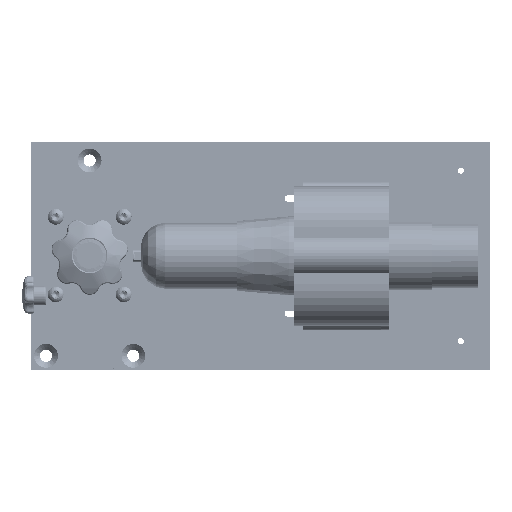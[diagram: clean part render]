
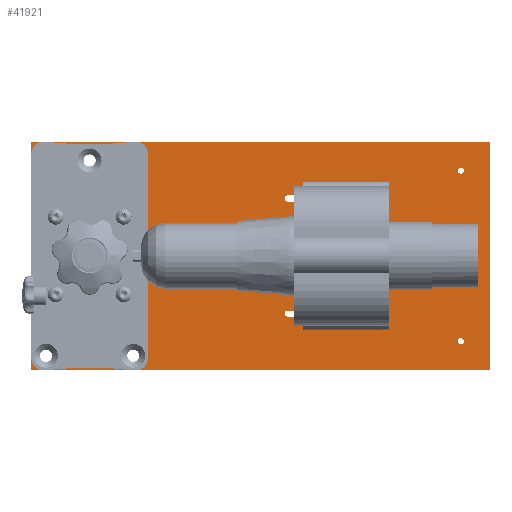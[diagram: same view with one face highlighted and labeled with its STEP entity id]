
A CAD part, top view. The second image highlights one B-rep face of the part: STEP entity #41921.
In plain terms, the highlighted planar face has unit normal (0, 0, 1).
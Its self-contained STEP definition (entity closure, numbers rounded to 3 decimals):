
#2645=FACE_BOUND('',#14587,.T.);
#2646=FACE_BOUND('',#14588,.T.);
#2647=FACE_BOUND('',#14589,.T.);
#2648=FACE_BOUND('',#14590,.T.);
#2649=FACE_BOUND('',#14591,.T.);
#2650=FACE_BOUND('',#14592,.T.);
#2651=FACE_BOUND('',#14593,.T.);
#2652=FACE_BOUND('',#14594,.T.);
#2653=FACE_BOUND('',#14595,.T.);
#3282=PLANE('',#45919);
#5472=LINE('',#121179,#8157);
#5474=LINE('',#121182,#8159);
#5478=LINE('',#121196,#8163);
#5482=LINE('',#121206,#8167);
#5486=LINE('',#121228,#8171);
#5490=LINE('',#121236,#8175);
#5493=LINE('',#121242,#8178);
#5496=LINE('',#121247,#8181);
#8157=VECTOR('',#55342,10.);
#8159=VECTOR('',#55346,10.);
#8163=VECTOR('',#55358,10.);
#8167=VECTOR('',#55370,10.);
#8171=VECTOR('',#55394,10.);
#8175=VECTOR('',#55400,10.);
#8178=VECTOR('',#55405,10.);
#8181=VECTOR('',#55410,10.);
#11931=FACE_OUTER_BOUND('',#14586,.T.);
#14586=EDGE_LOOP('',(#37456,#37457,#37458,#37459));
#14587=EDGE_LOOP('',(#37460));
#14588=EDGE_LOOP('',(#37461));
#14589=EDGE_LOOP('',(#37462));
#14590=EDGE_LOOP('',(#37463));
#14591=EDGE_LOOP('',(#37464,#37465,#37466,#37467));
#14592=EDGE_LOOP('',(#37468,#37469,#37470,#37471));
#14593=EDGE_LOOP('',(#37472));
#14594=EDGE_LOOP('',(#37473));
#14595=EDGE_LOOP('',(#37474));
#16573=CIRCLE('',#45879,2.);
#16575=CIRCLE('',#45882,2.);
#16577=CIRCLE('',#45885,2.);
#16579=CIRCLE('',#45888,2.);
#16581=CIRCLE('',#45891,2.);
#16583=CIRCLE('',#45894,2.);
#16585=CIRCLE('',#45899,2.);
#16587=CIRCLE('',#45903,2.);
#16589=CIRCLE('',#45907,3.969);
#16591=CIRCLE('',#45910,3.969);
#16593=CIRCLE('',#45913,3.969);
#20196=VERTEX_POINT('',#121138);
#20198=VERTEX_POINT('',#121144);
#20200=VERTEX_POINT('',#121150);
#20202=VERTEX_POINT('',#121156);
#20205=VERTEX_POINT('',#121163);
#20206=VERTEX_POINT('',#121165);
#20209=VERTEX_POINT('',#121172);
#20210=VERTEX_POINT('',#121174);
#20213=VERTEX_POINT('',#121187);
#20214=VERTEX_POINT('',#121189);
#20216=VERTEX_POINT('',#121195);
#20218=VERTEX_POINT('',#121201);
#20220=VERTEX_POINT('',#121210);
#20222=VERTEX_POINT('',#121216);
#20224=VERTEX_POINT('',#121222);
#20225=VERTEX_POINT('',#121226);
#20226=VERTEX_POINT('',#121227);
#20229=VERTEX_POINT('',#121235);
#20231=VERTEX_POINT('',#121241);
#26037=EDGE_CURVE('',#20196,#20196,#16573,.T.);
#26040=EDGE_CURVE('',#20198,#20198,#16575,.T.);
#26043=EDGE_CURVE('',#20200,#20200,#16577,.T.);
#26046=EDGE_CURVE('',#20202,#20202,#16579,.T.);
#26049=EDGE_CURVE('',#20206,#20205,#16581,.T.);
#26053=EDGE_CURVE('',#20210,#20209,#16583,.T.);
#26056=EDGE_CURVE('',#20205,#20210,#5472,.T.);
#26058=EDGE_CURVE('',#20209,#20206,#5474,.T.);
#26061=EDGE_CURVE('',#20214,#20213,#16585,.T.);
#26064=EDGE_CURVE('',#20216,#20214,#5478,.T.);
#26067=EDGE_CURVE('',#20218,#20216,#16587,.T.);
#26070=EDGE_CURVE('',#20213,#20218,#5482,.T.);
#26073=EDGE_CURVE('',#20220,#20220,#16589,.T.);
#26076=EDGE_CURVE('',#20222,#20222,#16591,.T.);
#26079=EDGE_CURVE('',#20224,#20224,#16593,.T.);
#26080=EDGE_CURVE('',#20225,#20226,#5486,.T.);
#26084=EDGE_CURVE('',#20226,#20229,#5490,.T.);
#26087=EDGE_CURVE('',#20229,#20231,#5493,.T.);
#26090=EDGE_CURVE('',#20231,#20225,#5496,.T.);
#37456=ORIENTED_EDGE('',*,*,#26090,.T.);
#37457=ORIENTED_EDGE('',*,*,#26080,.T.);
#37458=ORIENTED_EDGE('',*,*,#26084,.T.);
#37459=ORIENTED_EDGE('',*,*,#26087,.T.);
#37460=ORIENTED_EDGE('',*,*,#26037,.T.);
#37461=ORIENTED_EDGE('',*,*,#26040,.T.);
#37462=ORIENTED_EDGE('',*,*,#26043,.T.);
#37463=ORIENTED_EDGE('',*,*,#26046,.T.);
#37464=ORIENTED_EDGE('',*,*,#26056,.T.);
#37465=ORIENTED_EDGE('',*,*,#26053,.T.);
#37466=ORIENTED_EDGE('',*,*,#26058,.T.);
#37467=ORIENTED_EDGE('',*,*,#26049,.T.);
#37468=ORIENTED_EDGE('',*,*,#26070,.T.);
#37469=ORIENTED_EDGE('',*,*,#26067,.T.);
#37470=ORIENTED_EDGE('',*,*,#26064,.T.);
#37471=ORIENTED_EDGE('',*,*,#26061,.T.);
#37472=ORIENTED_EDGE('',*,*,#26079,.F.);
#37473=ORIENTED_EDGE('',*,*,#26076,.F.);
#37474=ORIENTED_EDGE('',*,*,#26073,.F.);
#41921=ADVANCED_FACE('',(#11931,#2645,#2646,#2647,#2648,#2649,#2650,#2651,
#2652,#2653),#3282,.F.);
#45879=AXIS2_PLACEMENT_3D('',#121140,#55300,#55301);
#45882=AXIS2_PLACEMENT_3D('',#121146,#55307,#55308);
#45885=AXIS2_PLACEMENT_3D('',#121152,#55314,#55315);
#45888=AXIS2_PLACEMENT_3D('',#121158,#55321,#55322);
#45891=AXIS2_PLACEMENT_3D('',#121166,#55328,#55329);
#45894=AXIS2_PLACEMENT_3D('',#121175,#55336,#55337);
#45899=AXIS2_PLACEMENT_3D('',#121190,#55352,#55353);
#45903=AXIS2_PLACEMENT_3D('',#121202,#55364,#55365);
#45907=AXIS2_PLACEMENT_3D('',#121212,#55376,#55377);
#45910=AXIS2_PLACEMENT_3D('',#121218,#55383,#55384);
#45913=AXIS2_PLACEMENT_3D('',#121224,#55390,#55391);
#45919=AXIS2_PLACEMENT_3D('',#121250,#55414,#55415);
#55300=DIRECTION('center_axis',(0.,0.,-1.));
#55301=DIRECTION('ref_axis',(1.,0.,0.));
#55307=DIRECTION('center_axis',(0.,0.,-1.));
#55308=DIRECTION('ref_axis',(1.,0.,0.));
#55314=DIRECTION('center_axis',(0.,0.,-1.));
#55315=DIRECTION('ref_axis',(1.,0.,0.));
#55321=DIRECTION('center_axis',(0.,0.,-1.));
#55322=DIRECTION('ref_axis',(1.,0.,0.));
#55328=DIRECTION('center_axis',(0.,0.,-1.));
#55329=DIRECTION('ref_axis',(0.,1.,0.));
#55336=DIRECTION('center_axis',(0.,0.,-1.));
#55337=DIRECTION('ref_axis',(0.,-1.,0.));
#55342=DIRECTION('',(-1.,0.,0.));
#55346=DIRECTION('',(1.,0.,0.));
#55352=DIRECTION('center_axis',(0.,0.,-1.));
#55353=DIRECTION('ref_axis',(0.,1.,0.));
#55358=DIRECTION('',(1.,0.,0.));
#55364=DIRECTION('center_axis',(0.,0.,-1.));
#55365=DIRECTION('ref_axis',(0.,-1.,0.));
#55370=DIRECTION('',(-1.,0.,0.));
#55376=DIRECTION('center_axis',(0.,0.,1.));
#55377=DIRECTION('ref_axis',(1.,0.,0.));
#55383=DIRECTION('center_axis',(0.,0.,1.));
#55384=DIRECTION('ref_axis',(1.,0.,0.));
#55390=DIRECTION('center_axis',(0.,0.,1.));
#55391=DIRECTION('ref_axis',(1.,0.,0.));
#55394=DIRECTION('',(0.,-1.,0.));
#55400=DIRECTION('',(1.,0.,0.));
#55405=DIRECTION('',(0.,1.,0.));
#55410=DIRECTION('',(-1.,0.,0.));
#55414=DIRECTION('center_axis',(0.,0.,-1.));
#55415=DIRECTION('ref_axis',(1.,0.,0.));
#121138=CARTESIAN_POINT('',(240.85,55.761,-12.7));
#121140=CARTESIAN_POINT('Origin',(242.85,55.761,-12.7));
#121144=CARTESIAN_POINT('',(-21.05,55.761,-12.7));
#121146=CARTESIAN_POINT('Origin',(-19.05,55.761,-12.7));
#121150=CARTESIAN_POINT('',(240.85,-55.698,-12.7));
#121152=CARTESIAN_POINT('Origin',(242.85,-55.698,-12.7));
#121156=CARTESIAN_POINT('',(-2.,-55.698,-12.7));
#121158=CARTESIAN_POINT('Origin',(0.,-55.698,-12.7));
#121163=CARTESIAN_POINT('',(184.575,-39.645,-12.7));
#121165=CARTESIAN_POINT('',(184.575,-35.645,-12.7));
#121166=CARTESIAN_POINT('Origin',(184.575,-37.645,-12.7));
#121172=CARTESIAN_POINT('',(129.575,-35.645,-12.7));
#121174=CARTESIAN_POINT('',(129.575,-39.645,-12.7));
#121175=CARTESIAN_POINT('Origin',(129.575,-37.645,-12.7));
#121179=CARTESIAN_POINT('',(138.238,-39.645,-12.7));
#121182=CARTESIAN_POINT('',(128.238,-35.645,-12.7));
#121187=CARTESIAN_POINT('',(184.575,35.645,-12.7));
#121189=CARTESIAN_POINT('',(184.575,39.645,-12.7));
#121190=CARTESIAN_POINT('Origin',(184.575,37.645,-12.7));
#121195=CARTESIAN_POINT('',(129.575,39.645,-12.7));
#121196=CARTESIAN_POINT('',(128.238,39.645,-12.7));
#121201=CARTESIAN_POINT('',(129.575,35.645,-12.7));
#121202=CARTESIAN_POINT('Origin',(129.575,37.645,-12.7));
#121206=CARTESIAN_POINT('',(120.738,35.645,-12.7));
#121210=CARTESIAN_POINT('',(-32.544,-65.286,-12.7));
#121212=CARTESIAN_POINT('Origin',(-28.575,-65.286,-12.7));
#121216=CARTESIAN_POINT('',(24.606,-65.286,-12.7));
#121218=CARTESIAN_POINT('Origin',(28.575,-65.286,-12.7));
#121222=CARTESIAN_POINT('',(-3.969,62.492,-12.7));
#121224=CARTESIAN_POINT('Origin',(0.,62.492,-12.7));
#121226=CARTESIAN_POINT('',(-38.1,74.811,-12.7));
#121227=CARTESIAN_POINT('',(-38.1,-74.748,-12.7));
#121228=CARTESIAN_POINT('',(-38.1,74.811,-12.7));
#121235=CARTESIAN_POINT('',(261.9,-74.748,-12.7));
#121236=CARTESIAN_POINT('',(-38.1,-74.748,-12.7));
#121241=CARTESIAN_POINT('',(261.9,74.811,-12.7));
#121242=CARTESIAN_POINT('',(261.9,-74.748,-12.7));
#121247=CARTESIAN_POINT('',(261.9,74.811,-12.7));
#121250=CARTESIAN_POINT('Origin',(111.9,0.032,-12.7));
